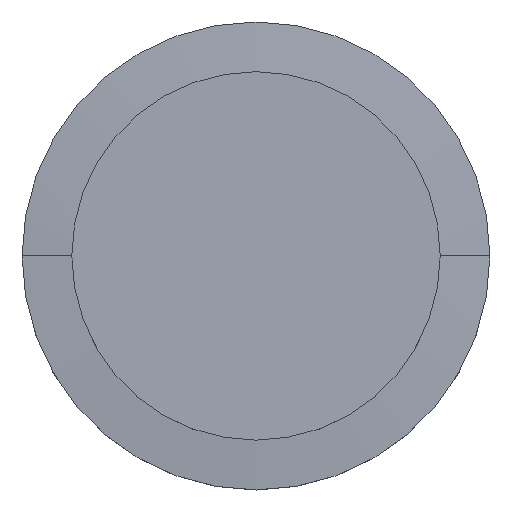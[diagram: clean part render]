
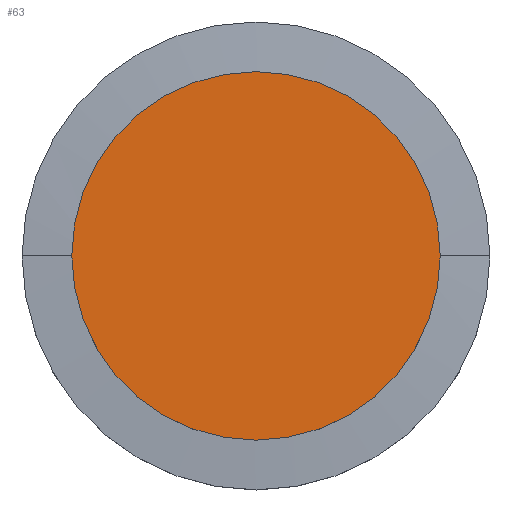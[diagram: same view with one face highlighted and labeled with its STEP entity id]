
A CAD part, top view. The second image highlights one B-rep face of the part: STEP entity #63.
In plain terms, the highlighted planar face has unit normal (0, 0, 1).
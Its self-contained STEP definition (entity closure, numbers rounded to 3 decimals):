
#63=ADVANCED_FACE('',(#83),#84,.T.);
#83=FACE_OUTER_BOUND('',#103,.T.);
#84=PLANE('',#104);
#103=EDGE_LOOP('',(#162,#163));
#104=AXIS2_PLACEMENT_3D('',#164,#165,#166);
#162=ORIENTED_EDGE('',*,*,#180,.T.);
#163=ORIENTED_EDGE('',*,*,#181,.T.);
#164=CARTESIAN_POINT('',(0.0,0.0,7.0));
#165=DIRECTION('',(0.0,0.0,1.0));
#166=DIRECTION('',(1.0,0.0,0.0));
#180=EDGE_CURVE('',#200,#204,#206,.T.);
#181=EDGE_CURVE('',#204,#200,#207,.T.);
#200=VERTEX_POINT('',#228);
#204=VERTEX_POINT('',#233);
#206=CIRCLE('',#236,10.0);
#207=CIRCLE('',#237,10.0);
#228=CARTESIAN_POINT('',(10.0,0.0,7.0));
#233=CARTESIAN_POINT('',(-10.0,0.,7.0));
#236=AXIS2_PLACEMENT_3D('',#270,#271,#272);
#237=AXIS2_PLACEMENT_3D('',#273,#274,#275);
#270=CARTESIAN_POINT('',(0.0,0.0,7.0));
#271=DIRECTION('',(0.0,0.0,1.0));
#272=DIRECTION('',(1.0,0.0,0.0));
#273=CARTESIAN_POINT('',(0.0,0.0,7.0));
#274=DIRECTION('',(0.0,0.0,1.0));
#275=DIRECTION('',(1.0,0.0,0.0));
